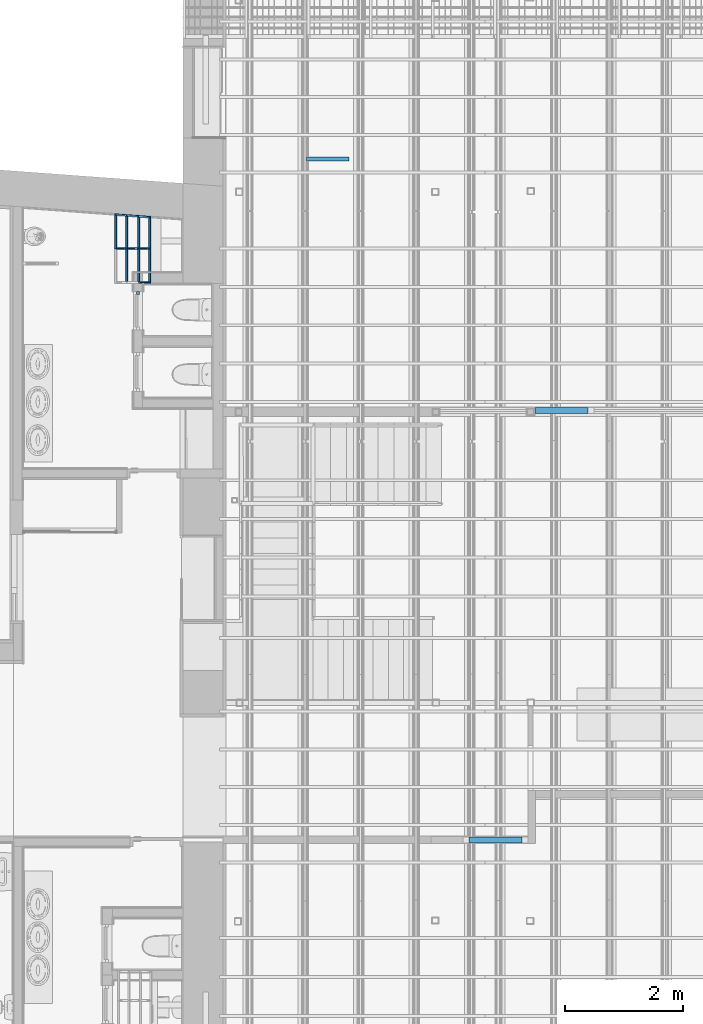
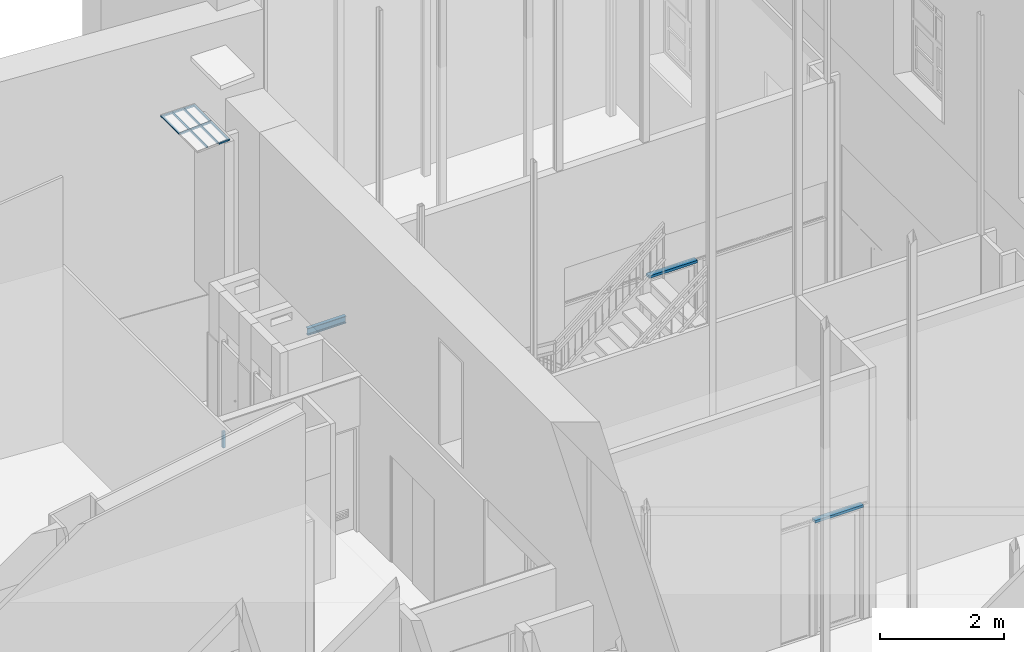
# One storey, part 29 of 75: 17 members, 1 beam, 4 elements without a shape of their own.
"""IFC2X3 building model written with IfcOpenShell, lengths in metres."""

from ifc_helpers import new_model, entity, si_unit, converted_unit, derived_unit, direction, frame, frame_2d, origin, origin_2d_with_axis, place, context, subcontext, project, spatial, polyline, circle_curve, parameter, trimmed, segment, composite_curve, rectangle, outline, extrude, clip, halfspace, bounded_halfspace, source, transform, mapped, material, type_object, type_shapes, element, aggregate, save


model = new_model("IFC2X3")

# Units and contexts
model_context = context("Model", 3, precision=1e-05, world=origin(), true_north=direction((6.12303176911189e-17, 1.0)))
body_context = subcontext(model_context, "Body", "Model", "MODEL_VIEW")
ifc_project = project(units=[si_unit("LENGTHUNIT", "METRE"), si_unit("AREAUNIT", "SQUARE_METRE"), si_unit("VOLUMEUNIT", "CUBIC_METRE"), converted_unit("PLANEANGLEUNIT", "DEGREE", entity("IfcRatioMeasure", 0.0174532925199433), si_unit("PLANEANGLEUNIT", "RADIAN"), dimensions=[0, 0, 0, 0, 0, 0, 0]), si_unit("MASSUNIT", "GRAM", prefix="KILO"), derived_unit("MASSDENSITYUNIT", [(si_unit("MASSUNIT", "GRAM", prefix="KILO"), 1), (si_unit("LENGTHUNIT", "METRE"), -3)]), derived_unit("MOMENTOFINERTIAUNIT", [(si_unit("LENGTHUNIT", "METRE"), 4)]), si_unit("TIMEUNIT", "SECOND"), si_unit("FREQUENCYUNIT", "HERTZ"), si_unit("THERMODYNAMICTEMPERATUREUNIT", "DEGREE_CELSIUS"), derived_unit("THERMALTRANSMITTANCEUNIT", [(si_unit("MASSUNIT", "GRAM", prefix="KILO"), 1), (si_unit("THERMODYNAMICTEMPERATUREUNIT", "KELVIN"), -1), (si_unit("TIMEUNIT", "SECOND"), -3)]), derived_unit("VOLUMETRICFLOWRATEUNIT", [(si_unit("LENGTHUNIT", "METRE"), 3), (si_unit("TIMEUNIT", "SECOND"), -1)]), si_unit("ELECTRICCURRENTUNIT", "AMPERE"), si_unit("ELECTRICVOLTAGEUNIT", "VOLT"), si_unit("POWERUNIT", "WATT"), si_unit("FORCEUNIT", "NEWTON", prefix="KILO"), si_unit("ILLUMINANCEUNIT", "LUX"), si_unit("LUMINOUSFLUXUNIT", "LUMEN"), si_unit("LUMINOUSINTENSITYUNIT", "CANDELA"), derived_unit("USERDEFINED", [(si_unit("MASSUNIT", "GRAM", prefix="KILO"), -1), (si_unit("LENGTHUNIT", "METRE"), -2), (si_unit("TIMEUNIT", "SECOND"), 3), (si_unit("LUMINOUSFLUXUNIT", "LUMEN"), 1)]), derived_unit("LINEARVELOCITYUNIT", [(si_unit("LENGTHUNIT", "METRE"), 1), (si_unit("TIMEUNIT", "SECOND"), -1)]), si_unit("PRESSUREUNIT", "PASCAL"), derived_unit("USERDEFINED", [(si_unit("LENGTHUNIT", "METRE"), -2), (si_unit("MASSUNIT", "GRAM", prefix="KILO"), 1), (si_unit("TIMEUNIT", "SECOND"), -2)]), derived_unit("LINEARFORCEUNIT", [(si_unit("MASSUNIT", "GRAM", prefix="KILO"), 1), (si_unit("LENGTHUNIT", "METRE"), 1), (si_unit("TIMEUNIT", "SECOND"), -2), (si_unit("LENGTHUNIT", "METRE"), -1)]), derived_unit("PLANARFORCEUNIT", [(si_unit("MASSUNIT", "GRAM", prefix="KILO"), 1), (si_unit("LENGTHUNIT", "METRE"), 1), (si_unit("TIMEUNIT", "SECOND"), -2), (si_unit("LENGTHUNIT", "METRE"), -2)])], contexts=[model_context])

# Site, building, storey
site_placement = place(None, origin())
site = spatial("IfcSite", under=ifc_project, at=site_placement, Name="Superficie", CompositionType="ELEMENT")
building_placement = place(site_placement, origin())
building = spatial("IfcBuilding", under=site, at=building_placement, Name="Telegestiones", CompositionType="ELEMENT")
storey_placement = place(building_placement, origin())
storey = spatial("IfcBuildingStorey", under=building, at=storey_placement, Name="Nivel 0_NPT", CompositionType="ELEMENT", Elevation=0.0)

# Beam
ifc_material_1 = material(Name="Metal - Acero - 345 MPa")
beam_type = type_object("IfcBeamType", Name="IPN - Secciones en I con alas cónicas:IPN 140", PredefinedType="NOTDEFINED")
beam_placement = place(storey_placement, frame((7.46194548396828, 10.7375539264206, 0.0)))
element("IfcBeam", 1, at=beam_placement, inside=storey, type_object=beam_type, material=ifc_material_1, Name="IPN - Secciones en I con alas cónicas:IPN 140", ObjectType="IPN - Secciones en I con alas cónicas:IPN 140", context=body_context, shape_type="SweptSolid", body=[
    extrude(outline(composite_curve([segment(polyline([(0.0666671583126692, -0.0330000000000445), (0.0699999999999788, -0.0330000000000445)]), True, "CONTINUOUS"), segment(polyline([(0.0699999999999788, -0.0330000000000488), (0.0700000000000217, 0.0329999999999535)]), True, "CONTINUOUS"), segment(polyline([(0.0700000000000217, 0.0329999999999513), (0.0666671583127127, 0.0329999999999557)]), True, "CONTINUOUS"), segment(trimmed(circle_curve(frame_2d((0.066667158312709, 0.0295999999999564), x_axis=(0.0, 1.0)), 0.00339999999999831), [parameter(0.0)], [parameter(82.0303896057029)], True, "PARAMETER"), True, "CONTINUOUS"), segment(polyline([(0.0632999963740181, 0.0300714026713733), (0.0601763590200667, 0.00775970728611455)]), True, "CONTINUOUS"), segment(trimmed(circle_curve(frame_2d((0.0545314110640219, 0.00854999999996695), x_axis=(0.990341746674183, -0.13864784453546)), 0.00570000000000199), [parameter(277.969610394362)], [parameter(0.0)], True, "PARAMETER"), False, "CONTINUOUS"), segment(polyline([(0.0545314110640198, 0.00284999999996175), (-0.0545314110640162, 0.00285000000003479)]), True, "CONTINUOUS"), segment(trimmed(circle_curve(frame_2d((-0.0545314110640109, 0.00855000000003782), x_axis=(0.0, -1.0)), 0.00570000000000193), [parameter(277.969610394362)], [parameter(0.0)], True, "PARAMETER"), False, "CONTINUOUS"), segment(polyline([(-0.0601763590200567, 0.00775970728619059), (-0.063299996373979, 0.0300714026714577)]), True, "CONTINUOUS"), segment(trimmed(circle_curve(frame_2d((-0.0666671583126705, 0.0296000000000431), x_axis=(0.990341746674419, 0.13864784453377)), 0.00339999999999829), [parameter(0.0)], [parameter(82.0303896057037)], True, "PARAMETER"), True, "CONTINUOUS"), segment(polyline([(-0.0666671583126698, 0.0330000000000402), (-0.0699999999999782, 0.0330000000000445)]), True, "CONTINUOUS"), segment(polyline([(-0.0699999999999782, 0.0330000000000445), (-0.0700000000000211, -0.0329999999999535)]), True, "CONTINUOUS"), segment(polyline([(-0.0700000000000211, -0.0329999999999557), (-0.0666671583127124, -0.0329999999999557)]), True, "CONTINUOUS"), segment(trimmed(circle_curve(frame_2d((-0.0666671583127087, -0.0295999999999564), x_axis=(0.0, -1.0)), 0.00339999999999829), [parameter(0.0)], [parameter(82.0303896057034)], True, "PARAMETER"), True, "CONTINUOUS"), segment(polyline([(-0.0632999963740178, -0.0300714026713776), (-0.0601763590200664, -0.00775970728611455)]), True, "CONTINUOUS"), segment(trimmed(circle_curve(frame_2d((-0.0545314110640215, -0.00854999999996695), x_axis=(-0.990341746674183, 0.13864784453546)), 0.00570000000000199), [parameter(277.969610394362)], [parameter(0.0)], True, "PARAMETER"), False, "CONTINUOUS"), segment(polyline([(-0.0545314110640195, -0.00284999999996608), (0.0545314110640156, -0.00285000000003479)]), True, "CONTINUOUS"), segment(trimmed(circle_curve(frame_2d((0.0545314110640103, -0.00855000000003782), x_axis=(0.0, 1.0)), 0.00570000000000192), [parameter(277.969610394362)], [parameter(0.0)], True, "PARAMETER"), False, "CONTINUOUS"), segment(polyline([(0.0601763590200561, -0.00775970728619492), (0.0632999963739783, -0.0300714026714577)]), True, "CONTINUOUS"), segment(trimmed(circle_curve(frame_2d((0.0666671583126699, -0.0296000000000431), x_axis=(-0.990341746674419, -0.138647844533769)), 0.00339999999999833), [parameter(0.0)], [parameter(82.0303896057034)], True, "PARAMETER"), True, "CONTINUOUS")], self_intersect=False)), frame((0.0, 0.0, -0.100000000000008), z_axis=(1.0, 0.0, 0.0), x_axis=(0.0, 0.0, -1.0)), (0.0, 0.0, 1.0), 0.715227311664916),
])

# Curtain wall, member
curtain_wall_type_1 = type_object("IfcCurtainWallType", PredefinedType="NOTDEFINED")
curtain_wall_1_placement = place(storey_placement, origin())
curtain_wall_1 = element("IfcCurtainWall", 2, at=curtain_wall_1_placement, inside=storey, type_object=curtain_wall_type_1)
ifc_material_2 = material(Name="Aluminio")
member_type_1 = type_object("IfcMemberType", Name="Montante rectangular:5x10", PredefinedType="MULLION", material=ifc_material_2)
shared_shape_1 = source(origin(), body_context, "Body", "SweptSolid", [
    extrude(rectangle(XDim=0.1, YDim=0.05, at=origin_2d_with_axis()), frame((0.0, 0.0, -0.900000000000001), z_axis=(0.0, 0.0, 1.0), x_axis=(0.0, -1.0, 0.0)), (0.0, 0.0, 1.0), 0.9),
])
type_shapes(member_type_1, [shared_shape_1])
member_1_placement = place(curtain_wall_1_placement, frame((10.2238493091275, -0.846462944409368, 2.225), z_axis=(-1.0, 0.0, 0.0), x_axis=(0.0, 0.0, 1.0)))
member_1 = element("IfcMember", 3, at=member_1_placement, type_object=member_type_1, Name="Montante rectangular:5x10", ObjectType="Montante rectangular:5x10", context=body_context, shape_type="MappedRepresentation", body=[
    mapped(shared_shape_1, transform((0.0, 0.0, 0.0), scale=1.0)),
])
aggregate(curtain_wall_1, [member_1])

curtain_wall_type_2 = type_object("IfcCurtainWallType", PredefinedType="NOTDEFINED")
curtain_wall_2_placement = place(storey_placement, origin())
curtain_wall_2 = element("IfcCurtainWall", 4, at=curtain_wall_2_placement, inside=storey, type_object=curtain_wall_type_2)
member_type_2 = type_object("IfcMemberType", Name="Montante rectangular:5x10", PredefinedType="MULLION", material=ifc_material_2)
shared_shape_2 = source(origin(), body_context, "Body", "SweptSolid", [
    extrude(rectangle(XDim=0.1, YDim=0.05, at=origin_2d_with_axis()), frame((0.0, 0.0, -0.899999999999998), z_axis=(0.0, 0.0, 1.0), x_axis=(0.0, -1.0, 0.0)), (0.0, 0.0, 1.0), 0.899999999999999),
])
type_shapes(member_type_2, [shared_shape_2])
member_2_placement = place(curtain_wall_2_placement, frame((12.2468128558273, 6.45996042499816, 2.225), z_axis=(1.0, 0.0, 0.0), x_axis=(0.0, 0.0, 1.0)))
member_2 = element("IfcMember", 5, at=member_2_placement, type_object=member_type_2, Name="Montante rectangular:5x10", ObjectType="Montante rectangular:5x10", context=body_context, shape_type="MappedRepresentation", body=[
    mapped(shared_shape_2, transform((0.0, 0.0, 0.0), scale=1.0)),
])
aggregate(curtain_wall_2, [member_2])

# Roof, members
curtain_wall_type_3 = type_object("IfcCurtainWallType", Name="Cristalera inclinada:ARQ-CA-EX-Lucernario", PredefinedType="NOTDEFINED")
roof_placement = place(storey_placement, origin())
roof = element("IfcRoof", 6, at=roof_placement, inside=storey, type_object=curtain_wall_type_3, Name="Cristalera inclinada:ARQ-CA-EX-Lucernario", ObjectType="Cristalera inclinada:ARQ-CA-EX-Lucernario", ShapeType="NOTDEFINED")
member_type_3 = type_object("IfcMemberType", Name="Montante rectangular:3x3", PredefinedType="MULLION", material=ifc_material_2)
shared_shape_3 = source(origin(), body_context, "Body", "SweptSolid", [
    clip(extrude(rectangle(XDim=0.03, YDim=0.03, at=origin_2d_with_axis()), frame((-0.015, 0.0, -0.547625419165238), z_axis=(0.0, 0.0, 1.0), x_axis=(0.0, -1.0, 0.0)), (0.0, 0.0, 1.0), 0.547625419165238), halfspace(frame((0.0, -0.3048, 0.0), z_axis=(-0.680852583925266, 0.0, 0.732420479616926), x_axis=(-0.732420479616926, 0.0, -0.680852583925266)), False)),
])
type_shapes(member_type_3, [shared_shape_3])
member_3_placement = place(roof_placement, frame((4.8042897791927, 9.76347499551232, 5.89), z_axis=(0.0, 1.0, 0.0), x_axis=(0.998204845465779, 0.0, 0.0598922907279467)))
member_3 = element("IfcMember", 7, at=member_3_placement, type_object=member_type_3, Name="Montante rectangular:3x3", ObjectType="Montante rectangular:3x3", context=body_context, shape_type="MappedRepresentation", body=[
    mapped(shared_shape_3, transform((0.0, 0.0, 0.0), scale=1.0)),
])
member_type_4 = type_object("IfcMemberType", Name="Montante rectangular:3x3", PredefinedType="MULLION", material=ifc_material_2)
shared_shape_4 = source(origin(), body_context, "Body", "SweptSolid", [
    extrude(rectangle(XDim=0.03, YDim=0.03, at=origin_2d_with_axis()), frame((-0.015, 0.0, -0.173524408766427), z_axis=(0.0, 0.0, 1.0), x_axis=(0.0, -1.0, 0.0)), (0.0, 0.0, 1.0), 0.173524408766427),
])
type_shapes(member_type_4, [shared_shape_4])
member_4_placement = place(roof_placement, frame((4.77434363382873, 8.62360722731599, 5.88820323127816), z_axis=(0.998204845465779, 0.0, 0.0598922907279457), x_axis=(0.0, -1.0, 0.0)))
member_4 = element("IfcMember", 8, at=member_4_placement, type_object=member_type_4, Name="Montante rectangular:3x3", ObjectType="Montante rectangular:3x3", context=body_context, shape_type="MappedRepresentation", body=[
    mapped(shared_shape_4, transform((0.0, 0.0, 0.0), scale=1.0)),
])
member_type_5 = type_object("IfcMemberType", Name="Montante rectangular:3x3", PredefinedType="MULLION", material=ifc_material_2)
shared_shape_5 = source(origin(), body_context, "Body", "SweptSolid", [
    clip(extrude(rectangle(XDim=0.03, YDim=0.03, at=origin_2d_with_axis()), frame((-0.015, 0.0, -0.204067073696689), z_axis=(0.0, 0.0, 1.0), x_axis=(0.0, -1.0, 0.0)), (0.0, 0.0, 1.0), 0.20406707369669), halfspace(frame((0.0, -0.3048, 0.0), z_axis=(-0.732420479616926, 0.0, 0.680852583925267), x_axis=(-0.680852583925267, 0.0, -0.732420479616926)), False)),
])
type_shapes(member_type_5, [shared_shape_5])
member_5_placement = place(roof_placement, frame((4.19481262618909, 9.8080919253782, 5.85343137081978), z_axis=(-0.995550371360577, 0.0728795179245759, -0.0597330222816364), x_axis=(0.0727486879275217, 0.997340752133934, 0.00436492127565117)))
member_5 = element("IfcMember", 9, at=member_5_placement, type_object=member_type_5, Name="Montante rectangular:3x3", ObjectType="Montante rectangular:3x3", context=body_context, shape_type="MappedRepresentation", body=[
    mapped(shared_shape_5, transform((0.0, 0.0, 0.0), scale=1.0)),
])
member_type_6 = type_object("IfcMemberType", Name="Montante rectangular:3x3", PredefinedType="MULLION", material=ifc_material_2)
shared_shape_6 = source(origin(), body_context, "Body", "SweptSolid", [
    extrude(rectangle(XDim=0.03, YDim=0.03, at=frame_2d((0.0, 4.33680868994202e-18), x_axis=(1.0, 0.0))), frame((-0.015, 0.0, -0.204067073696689), z_axis=(0.0, 0.0, 1.0), x_axis=(0.0, -1.0, 0.0)), (0.0, 0.0, 1.0), 0.204067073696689),
])
type_shapes(member_type_6, [shared_shape_6])
member_6_placement = place(roof_placement, frame((4.3979716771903, 9.7932196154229, 5.86562091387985), z_axis=(-0.995550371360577, 0.0728795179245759, -0.0597330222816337), x_axis=(0.0727486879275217, 0.997340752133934, 0.00436492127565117)))
member_6 = element("IfcMember", 10, at=member_6_placement, type_object=member_type_6, Name="Montante rectangular:3x3", ObjectType="Montante rectangular:3x3", context=body_context, shape_type="MappedRepresentation", body=[
    mapped(shared_shape_6, transform((0.0, 0.0, 0.0), scale=1.0)),
])
member_type_7 = type_object("IfcMemberType", Name="Montante rectangular:3x3", PredefinedType="MULLION", material=ifc_material_2)
shared_shape_7 = source(origin(), body_context, "Body", "SweptSolid", [
    extrude(rectangle(XDim=0.03, YDim=0.03, at=origin_2d_with_axis()), frame((0.0, 0.0, -0.562242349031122), z_axis=(0.0, 0.0, 1.0), x_axis=(0.0, -1.0, 0.0)), (0.0, 0.0, 1.0), 0.562242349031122),
])
type_shapes(member_type_7, [shared_shape_7])
member_7_placement = place(roof_placement, frame((4.6011307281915, 8.65360722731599, 5.87781045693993), z_axis=(0.0, -1.0, 0.0), x_axis=(-0.998204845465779, 0.0, -0.0598922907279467)))
member_7 = element("IfcMember", 11, at=member_7_placement, type_object=member_type_7, Name="Montante rectangular:3x3", ObjectType="Montante rectangular:3x3", context=body_context, shape_type="MappedRepresentation", body=[
    mapped(shared_shape_7, transform((0.0, 0.0, 0.0), scale=1.0)),
])
member_8_placement = place(roof_placement, frame((4.3979716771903, 8.65360722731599, 5.86562091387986), z_axis=(0.0, -1.0, 0.0), x_axis=(-0.998204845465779, 0.0, -0.0598922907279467)))
member_8 = element("IfcMember", 12, at=member_8_placement, type_object=member_type_7, Name="Montante rectangular:3x3", ObjectType="Montante rectangular:3x3", context=body_context, shape_type="MappedRepresentation", body=[
    mapped(shared_shape_7, transform((0.0, 0.0, 0.0), scale=1.0)),
])
member_type_8 = type_object("IfcMemberType", Name="Montante rectangular:3x3", PredefinedType="MULLION", material=ifc_material_2)
shared_shape_8 = source(origin(), body_context, "Body", "SweptSolid", [
    clip(extrude(rectangle(XDim=0.03, YDim=0.03, at=frame_2d((0.0, 4.33680868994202e-18), x_axis=(1.0, 0.0))), frame((-0.015, 0.0, -0.204067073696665), z_axis=(0.0, 0.0, 1.0), x_axis=(0.0, -1.0, 0.0)), (0.0, 0.0, 1.0), 0.204067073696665), halfspace(frame((0.0, -0.304800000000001, -0.204067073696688), z_axis=(-0.680852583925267, 0.0, -0.732420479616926), x_axis=(-0.732420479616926, 0.0, 0.680852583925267)), False)),
])
type_shapes(member_type_8, [shared_shape_8])
member_9_placement = place(roof_placement, frame((4.6011307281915, 9.77834730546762, 5.87781045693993), z_axis=(-0.995550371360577, 0.0728795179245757, -0.0597330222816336), x_axis=(0.0727486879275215, 0.997340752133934, 0.00436492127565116)))
member_9 = element("IfcMember", 13, at=member_9_placement, type_object=member_type_8, Name="Montante rectangular:3x3", ObjectType="Montante rectangular:3x3", context=body_context, shape_type="MappedRepresentation", body=[
    mapped(shared_shape_8, transform((0.0, 0.0, 0.0), scale=1.0)),
])
member_type_9 = type_object("IfcMemberType", Name="Montante rectangular:3x3", PredefinedType="MULLION", material=ifc_material_2)
shared_shape_9 = source(origin(), body_context, "Body", "SweptSolid", [
    clip(extrude(rectangle(XDim=0.03, YDim=0.03, at=origin_2d_with_axis()), frame((-0.015, 0.0, -0.592242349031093), z_axis=(0.0, 0.0, 1.0), x_axis=(0.0, -1.0, 0.0)), (0.0, 0.0, 1.0), 0.592242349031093), halfspace(frame((0.0, -0.3048, -0.592242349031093), z_axis=(-0.732420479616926, 0.0, -0.680852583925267), x_axis=(-0.680852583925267, 0.0, 0.732420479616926)), False)),
])
type_shapes(member_type_9, [shared_shape_9])
member_10_placement = place(roof_placement, frame((4.19481262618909, 9.21584957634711, 5.85343137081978), z_axis=(0.0, -1.0, 0.0), x_axis=(-0.998204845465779, 0.0, -0.0598922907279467)))
member_10 = element("IfcMember", 14, at=member_10_placement, type_object=member_type_9, Name="Montante rectangular:3x3", ObjectType="Montante rectangular:3x3", context=body_context, shape_type="MappedRepresentation", body=[
    mapped(shared_shape_9, transform((0.0, 0.0, 0.0), scale=1.0)),
])
member_type_10 = type_object("IfcMemberType", Name="Montante rectangular:3x3", PredefinedType="MULLION", material=ifc_material_2)
shared_shape_10 = source(origin(), body_context, "Body", "SweptSolid", [
    extrude(rectangle(XDim=0.03, YDim=0.03, at=origin_2d_with_axis()), frame((-0.015, 0.0, -0.592242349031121), z_axis=(0.0, 0.0, 1.0), x_axis=(0.0, -1.0, 0.0)), (0.0, 0.0, 1.0), 0.592242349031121),
])
type_shapes(member_type_10, [shared_shape_10])
member_11_placement = place(roof_placement, frame((4.80428977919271, 9.21584957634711, 5.89), z_axis=(0.0, 1.0, 0.0), x_axis=(0.998204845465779, 0.0, 0.0598922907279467)))
member_11 = element("IfcMember", 15, at=member_11_placement, type_object=member_type_10, Name="Montante rectangular:3x3", ObjectType="Montante rectangular:3x3", context=body_context, shape_type="MappedRepresentation", body=[
    mapped(shared_shape_10, transform((0.0, 0.0, 0.0), scale=1.0)),
])
member_type_11 = type_object("IfcMemberType", Name="Montante rectangular:3x3", PredefinedType="MULLION", material=ifc_material_2)
shared_shape_11 = source(origin(), body_context, "Body", "SweptSolid", [
    clip(clip(extrude(rectangle(XDim=0.03, YDim=0.03, at=origin_2d_with_axis()), frame((0.0, 0.0, -0.533513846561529), z_axis=(0.0, 0.0, 1.0), x_axis=(0.0, -1.0, 0.0)), (0.0, 0.0, 1.0), 0.533513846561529), bounded_halfspace(frame((0.205710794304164, 0.0149999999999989, -0.547449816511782), z_axis=(-0.0728795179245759, 0.0, -0.997340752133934), x_axis=(-0.997340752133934, 0.0, 0.0728795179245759)), False, frame((0.0, 0.0, -0.533513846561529), z_axis=(0.0, 0.0, 1.0), x_axis=(0.0, -1.0, 0.0)), polyline([(-0.0149999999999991, 0.015), (0.015, 0.015), (0.015, 0.00218638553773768), (-0.015, 0.00218638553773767), (-0.0149999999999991, 0.015)]))), bounded_halfspace(frame((0.00218638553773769, 0.015, -0.532577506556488), z_axis=(-0.0728795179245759, 0.0, -0.997340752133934), x_axis=(-0.997340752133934, 0.0, 0.0728795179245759)), False, frame((0.0, 0.0, -0.533513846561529), z_axis=(0.0, 0.0, 1.0), x_axis=(0.0, -1.0, 0.0)), polyline([(0.015, 0.00218638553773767), (0.015, -0.015), (-0.015, -0.015), (-0.015, 0.00218638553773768), (0.015, 0.00218638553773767)]))),
])
type_shapes(member_type_11, [shared_shape_11])
member_12_placement = place(roof_placement, frame((4.6011307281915, 9.21584957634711, 5.87781045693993), z_axis=(0.0, -1.0, 0.0), x_axis=(-0.998204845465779, 0.0, -0.0598922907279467)))
member_12 = element("IfcMember", 16, at=member_12_placement, type_object=member_type_11, Name="Montante rectangular:3x3", ObjectType="Montante rectangular:3x3", context=body_context, shape_type="MappedRepresentation", body=[
    mapped(shared_shape_11, transform((0.0, 0.0, 0.0), scale=1.0)),
])
member_type_12 = type_object("IfcMemberType", Name="Montante rectangular:3x3", PredefinedType="MULLION", material=ifc_material_2)
shared_shape_12 = source(origin(), body_context, "Body", "SweptSolid", [
    clip(clip(extrude(rectangle(XDim=0.03, YDim=0.03, at=origin_2d_with_axis()), frame((0.0, 0.0, -0.548386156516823), z_axis=(0.0, 0.0, 1.0), x_axis=(0.0, -1.0, 0.0)), (0.0, 0.0, 1.0), 0.548386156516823), bounded_halfspace(frame((0.205710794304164, 0.0150000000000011, -0.562322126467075), z_axis=(-0.0728795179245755, 0.0, -0.997340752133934), x_axis=(-0.997340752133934, 0.0, 0.0728795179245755)), False, frame((0.0, 0.0, -0.548386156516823), z_axis=(0.0, 0.0, 1.0), x_axis=(0.0, -1.0, 0.0)), polyline([(-0.0150000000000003, 0.015), (0.015, 0.015), (0.015, 0.0021863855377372), (-0.015, 0.00218638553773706), (-0.0150000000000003, 0.015)]))), bounded_halfspace(frame((0.00218638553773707, 0.015, -0.547449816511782), z_axis=(-0.0728795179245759, 0.0, -0.997340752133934), x_axis=(-0.997340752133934, 0.0, 0.0728795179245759)), False, frame((0.0, 0.0, -0.548386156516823), z_axis=(0.0, 0.0, 1.0), x_axis=(0.0, -1.0, 0.0)), polyline([(0.015, 0.0021863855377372), (0.015, -0.015), (-0.015, -0.015), (-0.015, 0.00218638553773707), (0.015, 0.0021863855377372)]))),
])
type_shapes(member_type_12, [shared_shape_12])
member_13_placement = place(roof_placement, frame((4.3979716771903, 9.21584957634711, 5.86562091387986), z_axis=(0.0, -1.0, 0.0), x_axis=(-0.998204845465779, 0.0, -0.0598922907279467)))
member_13 = element("IfcMember", 17, at=member_13_placement, type_object=member_type_12, Name="Montante rectangular:3x3", ObjectType="Montante rectangular:3x3", context=body_context, shape_type="MappedRepresentation", body=[
    mapped(shared_shape_12, transform((0.0, 0.0, 0.0), scale=1.0)),
])
member_type_13 = type_object("IfcMemberType", Name="Montante rectangular:3x3", PredefinedType="MULLION", material=ifc_material_2)
shared_shape_13 = source(origin(), body_context, "Body", "SweptSolid", [
    extrude(rectangle(XDim=0.03, YDim=0.03, at=origin_2d_with_axis()), frame((0.0, 0.0, -0.158524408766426), z_axis=(0.0, 0.0, 1.0), x_axis=(0.0, -1.0, 0.0)), (0.0, 0.0, 1.0), 0.158524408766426),
])
type_shapes(member_type_13, [shared_shape_13])
member_14_placement = place(roof_placement, frame((4.22475877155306, 9.21584957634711, 5.85522813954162), z_axis=(-0.998204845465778, 0.0, -0.0598922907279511), x_axis=(0.0, 1.0, 0.0)))
member_14 = element("IfcMember", 18, at=member_14_placement, type_object=member_type_13, Name="Montante rectangular:3x3", ObjectType="Montante rectangular:3x3", context=body_context, shape_type="MappedRepresentation", body=[
    mapped(shared_shape_13, transform((0.0, 0.0, 0.0), scale=1.0)),
])
member_15_placement = place(roof_placement, frame((4.61610380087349, 9.21584957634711, 5.87870884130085), z_axis=(-0.998204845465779, 0.0, -0.0598922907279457), x_axis=(0.0, 1.0, 0.0)))
member_15 = element("IfcMember", 19, at=member_15_placement, type_object=member_type_13, Name="Montante rectangular:3x3", ObjectType="Montante rectangular:3x3", context=body_context, shape_type="MappedRepresentation", body=[
    mapped(shared_shape_13, transform((0.0, 0.0, 0.0), scale=1.0)),
])
member_type_14 = type_object("IfcMemberType", Name="Montante rectangular:3x3", PredefinedType="MULLION", material=ifc_material_2)
shared_shape_14 = source(origin(), body_context, "Body", "SweptSolid", [
    extrude(rectangle(XDim=0.03, YDim=0.03, at=origin_2d_with_axis()), frame((0.0, 0.0, -0.173524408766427), z_axis=(0.0, 0.0, 1.0), x_axis=(0.0, -1.0, 0.0)), (0.0, 0.0, 1.0), 0.173524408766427),
])
type_shapes(member_type_14, [shared_shape_14])
member_16_placement = place(roof_placement, frame((4.41294474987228, 9.21584957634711, 5.86651929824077), z_axis=(-0.998204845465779, 0.0, -0.0598922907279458), x_axis=(0.0, 1.0, 0.0)))
member_16 = element("IfcMember", 20, at=member_16_placement, type_object=member_type_14, Name="Montante rectangular:3x3", ObjectType="Montante rectangular:3x3", context=body_context, shape_type="MappedRepresentation", body=[
    mapped(shared_shape_14, transform((0.0, 0.0, 0.0), scale=1.0)),
])
aggregate(roof, [member_3, member_4, member_5, member_6, member_7, member_8, member_9, member_10, member_11, member_12, member_13, member_14, member_15, member_16])

# Curtain wall, member
curtain_wall_type_4 = type_object("IfcCurtainWallType", PredefinedType="NOTDEFINED")
curtain_wall_3_placement = place(storey_placement, origin())
curtain_wall_3 = element("IfcCurtainWall", 21, at=curtain_wall_3_placement, inside=storey, type_object=curtain_wall_type_4)
member_type_15 = type_object("IfcMemberType", Name="Montante rectangular:5x5", PredefinedType="MULLION", material=ifc_material_2)
shared_shape_15 = source(origin(), body_context, "Body", "SweptSolid", [
    extrude(rectangle(XDim=0.05, YDim=0.05, at=origin_2d_with_axis()), frame((-0.025, 0.0, -0.32), z_axis=(0.0, 0.0, 1.0), x_axis=(0.0, -1.0, 0.0)), (0.0, 0.0, 1.0), 0.32),
])
type_shapes(member_type_15, [shared_shape_15])
member_17_placement = place(curtain_wall_3_placement, frame((4.58981262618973, 8.48360722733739, 0.0), z_axis=(0.0, 0.0, -1.0), x_axis=(0.0, 1.0, 0.0)))
member_17 = element("IfcMember", 22, at=member_17_placement, type_object=member_type_15, Name="Montante rectangular:5x5", ObjectType="Montante rectangular:5x5", context=body_context, shape_type="MappedRepresentation", body=[
    mapped(shared_shape_15, transform((0.0, 0.0, 0.0), scale=1.0)),
])
aggregate(curtain_wall_3, [member_17])

save(model, "model.ifc")
